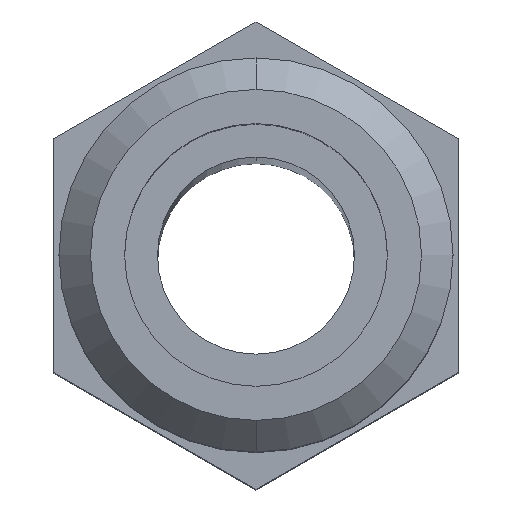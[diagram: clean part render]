
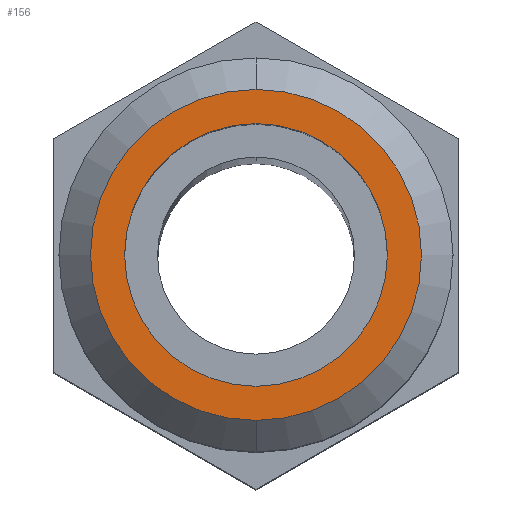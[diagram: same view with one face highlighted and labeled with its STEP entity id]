
A CAD part, top view. The second image highlights one B-rep face of the part: STEP entity #156.
In plain terms, the highlighted planar face has unit normal (0, 0, 1).
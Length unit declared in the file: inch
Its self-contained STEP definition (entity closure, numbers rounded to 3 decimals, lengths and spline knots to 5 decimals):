
#3 = CIRCLE ( 'NONE', #447, 0.125 ) ;
#54 = AXIS2_PLACEMENT_3D ( 'NONE', #588, #214, #719 ) ;
#76 = PLANE ( 'NONE',  #221 ) ;
#127 = VERTEX_POINT ( 'NONE', #211 ) ;
#136 = VERTEX_POINT ( 'NONE', #429 ) ;
#156 = ADVANCED_FACE ( 'NONE', ( #425, #297 ), #76, .T. ) ;
#180 = EDGE_CURVE ( 'NONE', #136, #222, #3, .T. ) ;
#206 = DIRECTION ( 'NONE',  ( 0., 1., 0. ) ) ;
#211 = CARTESIAN_POINT ( 'NONE',  ( 0., 0.1575, 0.375 ) ) ;
#214 = DIRECTION ( 'NONE',  ( 0., 0., -1. ) ) ;
#221 = AXIS2_PLACEMENT_3D ( 'NONE', #710, #362, #652 ) ;
#222 = VERTEX_POINT ( 'NONE', #252 ) ;
#252 = CARTESIAN_POINT ( 'NONE',  ( 0., 0.125, 0.375 ) ) ;
#255 = ORIENTED_EDGE ( 'NONE', *, *, #180, .T. ) ;
#288 = CARTESIAN_POINT ( 'NONE',  ( 0., 0., 0.375 ) ) ;
#297 = FACE_OUTER_BOUND ( 'NONE', #877, .T. ) ;
#317 = DIRECTION ( 'NONE',  ( 0., 1., 0. ) ) ;
#349 = CIRCLE ( 'NONE', #54, 0.1575 ) ;
#362 = DIRECTION ( 'NONE',  ( 0., 0., 1. ) ) ;
#425 = FACE_BOUND ( 'NONE', #633, .T. ) ;
#429 = CARTESIAN_POINT ( 'NONE',  ( 0., -0.125, 0.375 ) ) ;
#447 = AXIS2_PLACEMENT_3D ( 'NONE', #288, #758, #317 ) ;
#471 = CARTESIAN_POINT ( 'NONE',  ( 0., -0.1575, 0.375 ) ) ;
#494 = AXIS2_PLACEMENT_3D ( 'NONE', #545, #626, #841 ) ;
#527 = EDGE_CURVE ( 'NONE', #666, #127, #349, .T. ) ;
#545 = CARTESIAN_POINT ( 'NONE',  ( 0., 0., 0.375 ) ) ;
#588 = CARTESIAN_POINT ( 'NONE',  ( 0., 0., 0.375 ) ) ;
#595 = EDGE_CURVE ( 'NONE', #222, #136, #790, .T. ) ;
#606 = AXIS2_PLACEMENT_3D ( 'NONE', #635, #916, #206 ) ;
#626 = DIRECTION ( 'NONE',  ( 0., 0., -1. ) ) ;
#633 = EDGE_LOOP ( 'NONE', ( #914, #255 ) ) ;
#635 = CARTESIAN_POINT ( 'NONE',  ( 0., 0., 0.375 ) ) ;
#652 = DIRECTION ( 'NONE',  ( 0., -1., 0. ) ) ;
#660 = EDGE_CURVE ( 'NONE', #127, #666, #727, .T. ) ;
#666 = VERTEX_POINT ( 'NONE', #471 ) ;
#710 = CARTESIAN_POINT ( 'NONE',  ( 0., 0.125, 0.375 ) ) ;
#719 = DIRECTION ( 'NONE',  ( 0., 1., 0. ) ) ;
#727 = CIRCLE ( 'NONE', #494, 0.1575 ) ;
#758 = DIRECTION ( 'NONE',  ( 0., 0., -1. ) ) ;
#790 = CIRCLE ( 'NONE', #606, 0.125 ) ;
#822 = ORIENTED_EDGE ( 'NONE', *, *, #527, .F. ) ;
#841 = DIRECTION ( 'NONE',  ( 0., 1., 0. ) ) ;
#862 = ORIENTED_EDGE ( 'NONE', *, *, #660, .F. ) ;
#877 = EDGE_LOOP ( 'NONE', ( #862, #822 ) ) ;
#914 = ORIENTED_EDGE ( 'NONE', *, *, #595, .T. ) ;
#916 = DIRECTION ( 'NONE',  ( 0., 0., -1. ) ) ;
